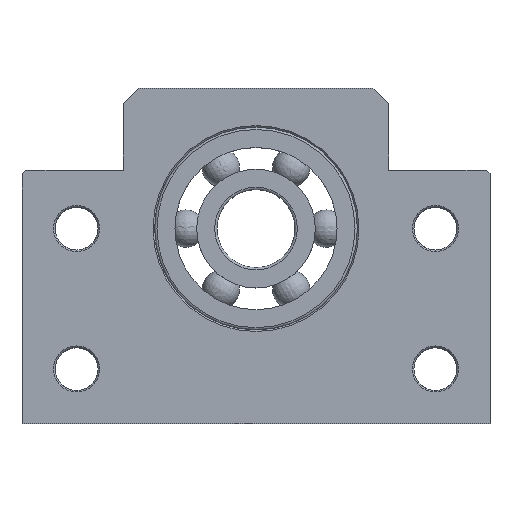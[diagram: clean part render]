
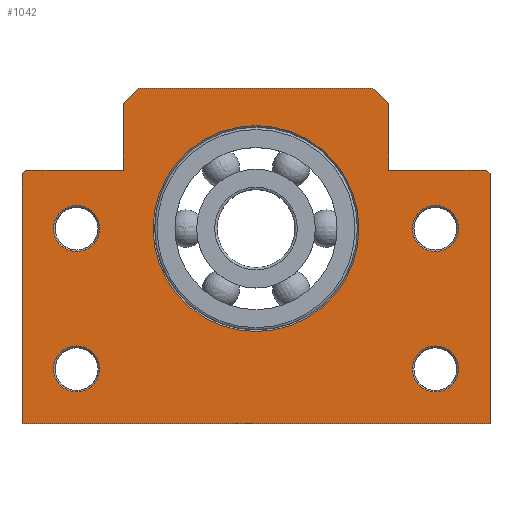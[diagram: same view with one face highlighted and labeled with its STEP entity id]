
A CAD part, top view. The second image highlights one B-rep face of the part: STEP entity #1042.
In plain terms, the highlighted planar face has unit normal (0, 0, 1).
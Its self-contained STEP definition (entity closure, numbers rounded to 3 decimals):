
#88=LINE('',#1845,#124);
#89=LINE('',#1847,#125);
#90=LINE('',#1849,#126);
#91=LINE('',#1851,#127);
#92=LINE('',#1853,#128);
#93=LINE('',#1855,#129);
#94=LINE('',#1857,#130);
#95=LINE('',#1859,#131);
#96=LINE('',#1861,#132);
#97=LINE('',#1863,#133);
#98=LINE('',#1865,#134);
#99=LINE('',#1866,#135);
#124=VECTOR('',#1325,0.707);
#125=VECTOR('',#1326,32.);
#126=VECTOR('',#1327,60.);
#127=VECTOR('',#1328,32.);
#128=VECTOR('',#1329,0.707);
#129=VECTOR('',#1330,12.5);
#130=VECTOR('',#1331,8.5);
#131=VECTOR('',#1332,2.828);
#132=VECTOR('',#1333,30.);
#133=VECTOR('',#1334,2.828);
#134=VECTOR('',#1335,8.5);
#135=VECTOR('',#1336,12.5);
#149=PLANE('',#1130);
#184=FACE_BOUND('',#339,.T.);
#185=FACE_BOUND('',#340,.T.);
#186=FACE_BOUND('',#341,.T.);
#187=FACE_BOUND('',#342,.T.);
#188=FACE_BOUND('',#343,.T.);
#255=FACE_OUTER_BOUND('',#338,.T.);
#338=EDGE_LOOP('',(#789,#790,#791,#792,#793,#794,#795,#796,#797,#798,#799,
#800));
#339=EDGE_LOOP('',(#801));
#340=EDGE_LOOP('',(#802));
#341=EDGE_LOOP('',(#803));
#342=EDGE_LOOP('',(#804));
#343=EDGE_LOOP('',(#805));
#463=CIRCLE('',#1129,13.2);
#464=CIRCLE('',#1131,2.95);
#465=CIRCLE('',#1132,2.95);
#466=CIRCLE('',#1133,2.95);
#467=CIRCLE('',#1134,2.95);
#557=VERTEX_POINT('',#1840);
#558=VERTEX_POINT('',#1843);
#559=VERTEX_POINT('',#1844);
#560=VERTEX_POINT('',#1846);
#561=VERTEX_POINT('',#1848);
#562=VERTEX_POINT('',#1850);
#563=VERTEX_POINT('',#1852);
#564=VERTEX_POINT('',#1854);
#565=VERTEX_POINT('',#1856);
#566=VERTEX_POINT('',#1858);
#567=VERTEX_POINT('',#1860);
#568=VERTEX_POINT('',#1862);
#569=VERTEX_POINT('',#1864);
#570=VERTEX_POINT('',#1867);
#571=VERTEX_POINT('',#1869);
#572=VERTEX_POINT('',#1871);
#573=VERTEX_POINT('',#1873);
#655=EDGE_CURVE('',#557,#557,#463,.T.);
#656=EDGE_CURVE('',#558,#559,#88,.T.);
#657=EDGE_CURVE('',#558,#560,#89,.T.);
#658=EDGE_CURVE('',#560,#561,#90,.T.);
#659=EDGE_CURVE('',#561,#562,#91,.T.);
#660=EDGE_CURVE('',#563,#562,#92,.T.);
#661=EDGE_CURVE('',#563,#564,#93,.T.);
#662=EDGE_CURVE('',#564,#565,#94,.T.);
#663=EDGE_CURVE('',#566,#565,#95,.T.);
#664=EDGE_CURVE('',#566,#567,#96,.T.);
#665=EDGE_CURVE('',#568,#567,#97,.T.);
#666=EDGE_CURVE('',#568,#569,#98,.T.);
#667=EDGE_CURVE('',#569,#559,#99,.T.);
#668=EDGE_CURVE('',#570,#570,#464,.T.);
#669=EDGE_CURVE('',#571,#571,#465,.T.);
#670=EDGE_CURVE('',#572,#572,#466,.T.);
#671=EDGE_CURVE('',#573,#573,#467,.T.);
#789=ORIENTED_EDGE('',*,*,#656,.F.);
#790=ORIENTED_EDGE('',*,*,#657,.T.);
#791=ORIENTED_EDGE('',*,*,#658,.T.);
#792=ORIENTED_EDGE('',*,*,#659,.T.);
#793=ORIENTED_EDGE('',*,*,#660,.F.);
#794=ORIENTED_EDGE('',*,*,#661,.T.);
#795=ORIENTED_EDGE('',*,*,#662,.T.);
#796=ORIENTED_EDGE('',*,*,#663,.F.);
#797=ORIENTED_EDGE('',*,*,#664,.T.);
#798=ORIENTED_EDGE('',*,*,#665,.F.);
#799=ORIENTED_EDGE('',*,*,#666,.T.);
#800=ORIENTED_EDGE('',*,*,#667,.T.);
#801=ORIENTED_EDGE('',*,*,#668,.F.);
#802=ORIENTED_EDGE('',*,*,#669,.F.);
#803=ORIENTED_EDGE('',*,*,#670,.F.);
#804=ORIENTED_EDGE('',*,*,#671,.F.);
#805=ORIENTED_EDGE('',*,*,#655,.F.);
#1042=ADVANCED_FACE('',(#255,#184,#185,#186,#187,#188),#149,.T.);
#1129=AXIS2_PLACEMENT_3D('',#1841,#1321,#1322);
#1130=AXIS2_PLACEMENT_3D('',#1842,#1323,#1324);
#1131=AXIS2_PLACEMENT_3D('',#1868,#1337,#1338);
#1132=AXIS2_PLACEMENT_3D('',#1870,#1339,#1340);
#1133=AXIS2_PLACEMENT_3D('',#1872,#1341,#1342);
#1134=AXIS2_PLACEMENT_3D('',#1874,#1343,#1344);
#1321=DIRECTION('center_axis',(0.,0.,1.));
#1322=DIRECTION('ref_axis',(-1.,0.,0.));
#1323=DIRECTION('center_axis',(0.,0.,1.));
#1324=DIRECTION('ref_axis',(1.,0.,0.));
#1325=DIRECTION('',(0.707,0.707,0.));
#1326=DIRECTION('',(0.,-1.,0.));
#1327=DIRECTION('',(1.,0.,0.));
#1328=DIRECTION('',(0.,1.,0.));
#1329=DIRECTION('',(0.707,-0.707,0.));
#1330=DIRECTION('',(-1.,0.,0.));
#1331=DIRECTION('',(0.,1.,0.));
#1332=DIRECTION('',(0.707,-0.707,0.));
#1333=DIRECTION('',(-1.,0.,0.));
#1334=DIRECTION('',(0.707,0.707,0.));
#1335=DIRECTION('',(0.,-1.,0.));
#1336=DIRECTION('',(-1.,0.,0.));
#1337=DIRECTION('center_axis',(0.,0.,1.));
#1338=DIRECTION('ref_axis',(-1.,0.,0.));
#1339=DIRECTION('center_axis',(0.,0.,1.));
#1340=DIRECTION('ref_axis',(-1.,0.,0.));
#1341=DIRECTION('center_axis',(0.,0.,1.));
#1342=DIRECTION('ref_axis',(-1.,0.,0.));
#1343=DIRECTION('center_axis',(0.,0.,1.));
#1344=DIRECTION('ref_axis',(-1.,0.,0.));
#1840=CARTESIAN_POINT('',(13.2,25.,20.));
#1841=CARTESIAN_POINT('Origin',(0.,25.,20.));
#1842=CARTESIAN_POINT('Origin',(14.065,20.565,20.));
#1843=CARTESIAN_POINT('',(-30.,32.,20.));
#1844=CARTESIAN_POINT('',(-29.5,32.5,20.));
#1845=CARTESIAN_POINT('',(-21.717,40.283,20.));
#1846=CARTESIAN_POINT('',(-30.,0.,20.));
#1847=CARTESIAN_POINT('',(-30.,32.5,20.));
#1848=CARTESIAN_POINT('',(30.,0.,20.));
#1849=CARTESIAN_POINT('',(-30.,0.,20.));
#1850=CARTESIAN_POINT('',(30.,32.,20.));
#1851=CARTESIAN_POINT('',(30.,0.,20.));
#1852=CARTESIAN_POINT('',(29.5,32.5,20.));
#1853=CARTESIAN_POINT('',(28.75,33.25,20.));
#1854=CARTESIAN_POINT('',(17.,32.5,20.));
#1855=CARTESIAN_POINT('',(30.,32.5,20.));
#1856=CARTESIAN_POINT('',(17.,41.,20.));
#1857=CARTESIAN_POINT('',(17.,32.5,20.));
#1858=CARTESIAN_POINT('',(15.,43.,20.));
#1859=CARTESIAN_POINT('',(20.875,37.125,20.));
#1860=CARTESIAN_POINT('',(-15.,43.,20.));
#1861=CARTESIAN_POINT('',(17.,43.,20.));
#1862=CARTESIAN_POINT('',(-17.,41.,20.));
#1863=CARTESIAN_POINT('',(-13.842,44.158,20.));
#1864=CARTESIAN_POINT('',(-17.,32.5,20.));
#1865=CARTESIAN_POINT('',(-17.,43.,20.));
#1866=CARTESIAN_POINT('',(-17.,32.5,20.));
#1867=CARTESIAN_POINT('',(25.95,7.,20.));
#1868=CARTESIAN_POINT('Origin',(23.,7.,20.));
#1869=CARTESIAN_POINT('',(-20.05,7.,20.));
#1870=CARTESIAN_POINT('Origin',(-23.,7.,20.));
#1871=CARTESIAN_POINT('',(-20.05,25.,20.));
#1872=CARTESIAN_POINT('Origin',(-23.,25.,20.));
#1873=CARTESIAN_POINT('',(25.95,25.,20.));
#1874=CARTESIAN_POINT('Origin',(23.,25.,20.));
